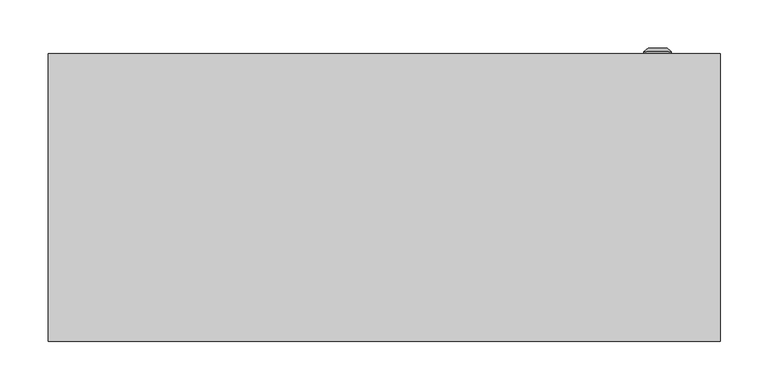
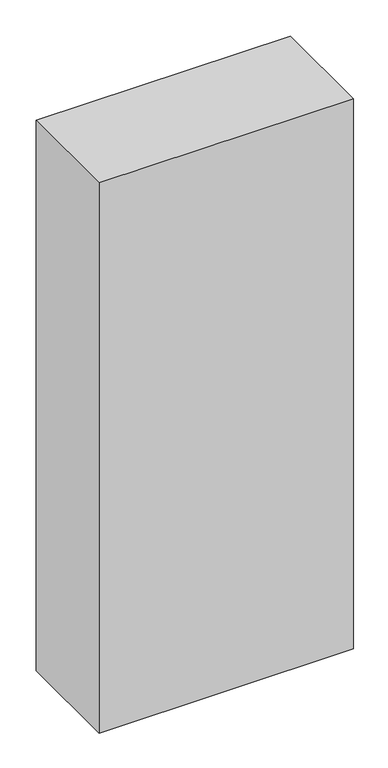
"""IFC4 building model written with IfcOpenShell, lengths in millimetres: proxy geometry, ШРС : ШРС-1_1600х700х300."""

from ifc_helpers import new_model, si_unit, frame, origin, place, context, project, spatial, polyline, circle_curve, outline, extrude, faceted_brep, source, transform, mapped, element, save
from ifc_brep_helpers import plane_surface, cylinder_surface, revolved_surface, advanced_brep


def electrical_equipment_89490b8c(model_context):
    return source(origin(), model_context, "Body", "SolidModel", [
        faceted_brep([(336.0, 280.0, 1535.0), (336.0, 280.0, 65.0187804), (-336.0, 280.0, 65.0187804), (-336.0, 280.0, 1535.0), (315.8707865, 280.0, 93.3701084), (315.8707865, 280.0, 1492.9861595), (-313.3426966, 280.0, 1492.9861595), (-313.3426966, 280.0, 93.3701084), (-350.0, 0.0, 1600.0), (-350.0, 300.0, 1600.0), (-350.0, 300.0, 0.0), (-350.0, 0.0, 0.0), (350.0, 300.0, 1600.0), (350.0, 0.0, 1600.0), (350.0, 0.0, 0.0), (350.0, 300.0, 0.0), (-313.3426966, 10.0, 93.3701084), (315.8707865, 10.0, 93.3701084), (-313.3426966, 10.0, 1492.9861595), (315.8707865, 10.0, 1492.9861595), (336.0, 300.0, 1535.0), (-336.0, 300.0, 1535.0), (336.0, 300.0, 65.0187804), (-336.0, 300.0, 65.0187804)], [[[0, 1, 2, 3], [4, 5, 6, 7]], [[8, 9, 10, 11]], [[12, 13, 14, 15]], [[4, 7, 16, 17]], [[7, 6, 18, 16]], [[6, 5, 19, 18]], [[5, 4, 17, 19]], [[12, 9, 8, 13]], [[20, 0, 3, 21]], [[9, 12, 15, 10], [22, 20, 21, 23]], [[14, 13, 8, 11]], [[1, 22, 23, 2]], [[15, 14, 11, 10]], [[20, 22, 1, 0]], [[23, 21, 3, 2]], [[17, 16, 18, 19]]]),
        extrude(outline(polyline([(-305.8707865, 125.9831461), (-265.8707865, 125.9831461), (-265.8707865, 93.1179775), (-268.8707865, 93.1179775), (-268.8707865, 122.9831461), (-302.8707865, 122.9831461), (-302.8707865, 93.1179775), (-305.8707865, 93.1179775), (-305.8707865, 125.9831461)])), frame((0.0, 0.0, 189.6067416), z_axis=(0.0, 0.0, 1.0), x_axis=(1.0, 0.0, 0.0)), (0.0, 0.0, 1.0), 1345.3932584),
        extrude(outline(polyline([(265.8707865, 125.9831461), (305.8707865, 125.9831461), (305.8707865, 93.1179775), (302.8707865, 93.1179775), (302.8707865, 122.9831461), (268.8707865, 122.9831461), (268.8707865, 93.1179775), (265.8707865, 93.1179775), (265.8707865, 125.9831461)])), frame((0.0, 0.0, 189.6067416), z_axis=(0.0, 0.0, 1.0), x_axis=(1.0, 0.0, 0.0)), (0.0, 0.0, 1.0), 1345.3932584),
        extrude(outline(polyline([(-305.8707865, 10.0), (-315.8707865, 10.0), (-315.8707865, 280.0), (-305.8707865, 280.0), (-305.8707865, 10.0)])), frame((0.0, 0.0, 1445.5966059), z_axis=(0.0, 0.0, 1.0), x_axis=(1.0, 0.0, 0.0)), (0.0, 0.0, 1.0), 53.0898876),
        extrude(outline(polyline([(315.8707865, 10.0), (305.8707865, 10.0), (305.8707865, 280.0), (315.8707865, 280.0), (315.8707865, 10.0)])), frame((0.0, 0.0, 1445.5966059), z_axis=(0.0, 0.0, 1.0), x_axis=(1.0, 0.0, 0.0)), (0.0, 0.0, 1.0), 53.0898876),
        extrude(outline(polyline([(-305.8707865, 10.0), (-315.8707865, 10.0), (-315.8707865, 280.0), (-305.8707865, 280.0), (-305.8707865, 10.0)])), frame((0.0, 0.0, 255.5966059), z_axis=(0.0, 0.0, 1.0), x_axis=(1.0, 0.0, 0.0)), (0.0, 0.0, 1.0), 53.0898876),
        extrude(outline(polyline([(315.8707865, 10.0), (305.8707865, 10.0), (305.8707865, 280.0), (315.8707865, 280.0), (315.8707865, 10.0)])), frame((0.0, 0.0, 255.5966059), z_axis=(0.0, 0.0, 1.0), x_axis=(1.0, 0.0, 0.0)), (0.0, 0.0, 1.0), 53.0898876),
        extrude(outline(polyline([(-305.8707865, 10.0), (-315.8707865, 10.0), (-315.8707865, 280.0), (-305.8707865, 280.0), (-305.8707865, 10.0)])), frame((0.0, 0.0, 735.5966059), z_axis=(0.0, 0.0, 1.0), x_axis=(1.0, 0.0, 0.0)), (0.0, 0.0, 1.0), 53.0898876),
        extrude(outline(polyline([(315.8707865, 10.0), (305.8707865, 10.0), (305.8707865, 280.0), (315.8707865, 280.0), (315.8707865, 10.0)])), frame((0.0, 0.0, 735.5966059), z_axis=(0.0, 0.0, 1.0), x_axis=(1.0, 0.0, 0.0)), (0.0, 0.0, 1.0), 53.0898876),
        advanced_brep(
        [(270.669873, 300.0, 315.0), (299.330127, 300.0, 315.0), (285.0, 300.0, 315.0), (270.669873, 302.366592, 315.0), (299.330127, 302.366592, 315.0), (275.0, 306.0, 315.0), (295.0, 306.0, 315.0), (283.1080471, 306.0, 315.0), (286.8919529, 306.0, 315.0), (283.1080471, 304.9822294, 315.0), (286.8919529, 304.9822294, 315.0), (285.0, 304.9822294, 315.0)],
        [
            (0, 1, circle_curve(frame((285.0, 300.0, 315.0), z_axis=(0.0, -1.0, 0.0), x_axis=(1.0, 0.0, 0.0)), 14.330127)),
            (1, 2),
            (2, 0),
            (1, 0, circle_curve(frame((285.0, 300.0, 315.0), z_axis=(0.0, -1.0, 0.0), x_axis=(1.0, 0.0, 0.0)), 14.330127)),
            (3, 4, circle_curve(frame((285.0, 302.366592, 315.0), z_axis=(0.0, -1.0, 0.0), x_axis=(1.0, 0.0, 0.0)), 14.330127)),
            (4, 1),
            (0, 3),
            (4, 3, circle_curve(frame((285.0, 302.366592, 315.0), z_axis=(0.0, -1.0, 0.0), x_axis=(1.0, 0.0, 0.0)), 14.330127)),
            (5, 6, circle_curve(frame((285.0, 306.0, 315.0), z_axis=(0.0, -1.0, 0.0), x_axis=(1.0, 0.0, 0.0)), 10.0)),
            (6, 4),
            (3, 5),
            (6, 5, circle_curve(frame((285.0, 306.0, 315.0), z_axis=(0.0, -1.0, 0.0), x_axis=(1.0, 0.0, 0.0)), 10.0)),
            (7, 8, circle_curve(frame((285.0, 306.0, 315.0), z_axis=(0.0, -1.0, 0.0), x_axis=(1.0, 0.0, 0.0)), 1.8919529)),
            (8, 6),
            (5, 7),
            (8, 7, circle_curve(frame((285.0, 306.0, 315.0), z_axis=(0.0, -1.0, 0.0), x_axis=(1.0, 0.0, 0.0)), 1.8919529)),
            (9, 10, circle_curve(frame((285.0, 304.9822294, 315.0), z_axis=(0.0, -1.0, 0.0), x_axis=(1.0, 0.0, 0.0)), 1.8919529)),
            (10, 8),
            (7, 9),
            (10, 9, circle_curve(frame((285.0, 304.9822294, 315.0), z_axis=(0.0, -1.0, 0.0), x_axis=(1.0, 0.0, 0.0)), 1.8919529)),
            (11, 10),
            (9, 11),
        ],
        [
            plane_surface(frame((285.0, 300.0, 315.0), z_axis=(0.0, -1.0, 0.0), x_axis=(1.0, 0.0, 0.0))),
            cylinder_surface(frame((285.0, 313.1348851, 315.0), z_axis=(0.0, 1.0, 0.0), x_axis=(1.0, 0.0, 0.0)), 14.330127),
            revolved_surface(polyline([(299.330127, 302.366592, 315.0), (295.0, 306.0, 315.0)]), (285.0, 313.1348851, 315.0), (0.0, 1.0, 0.0)),
            plane_surface(frame((285.0, 306.0, 315.0), z_axis=(0.0, 1.0, 0.0), x_axis=(1.0, 0.0, 0.0))),
            revolved_surface(polyline([(286.8919529, 306.0, 315.0), (286.8919529, 304.9822294, 315.0)]), (285.0, 313.1348851, 315.0), (0.0, 1.0, 0.0)),
            plane_surface(frame((285.0, 304.9822294, 315.0), z_axis=(0.0, 1.0, 0.0), x_axis=(1.0, 0.0, 0.0))),
        ],
        [
            (0, [[1, 2, 3]]),
            (0, [[4, -3, -2]]),
            (1, [[5, 6, -1, 7]]),
            (1, [[8, -7, -4, -6]]),
            (2, [[9, 10, -5, 11]]),
            (2, [[12, -11, -8, -10]]),
            (3, [[13, 14, -9, 15]]),
            (3, [[16, -15, -12, -14]]),
            (4, [[17, 18, -13, 19]]),
            (4, [[20, -19, -16, -18]]),
            (5, [[21, -17, 22]]),
            (5, [[-22, -20, -21]]),
        ],
    ),
        advanced_brep(
        [(270.669873, 300.0, 1285.0), (299.330127, 300.0, 1285.0), (285.0, 300.0, 1285.0), (270.669873, 302.366592, 1285.0), (299.330127, 302.366592, 1285.0), (275.0, 306.0, 1285.0), (295.0, 306.0, 1285.0), (283.1080471, 306.0, 1285.0), (286.8919529, 306.0, 1285.0), (283.1080471, 304.9822294, 1285.0), (286.8919529, 304.9822294, 1285.0), (285.0, 304.9822294, 1285.0)],
        [
            (0, 1, circle_curve(frame((285.0, 300.0, 1285.0), z_axis=(0.0, -1.0, 0.0), x_axis=(1.0, 0.0, 0.0)), 14.330127)),
            (1, 2),
            (2, 0),
            (1, 0, circle_curve(frame((285.0, 300.0, 1285.0), z_axis=(0.0, -1.0, 0.0), x_axis=(1.0, 0.0, 0.0)), 14.330127)),
            (3, 4, circle_curve(frame((285.0, 302.366592, 1285.0), z_axis=(0.0, -1.0, 0.0), x_axis=(1.0, 0.0, 0.0)), 14.330127)),
            (4, 1),
            (0, 3),
            (4, 3, circle_curve(frame((285.0, 302.366592, 1285.0), z_axis=(0.0, -1.0, 0.0), x_axis=(1.0, 0.0, 0.0)), 14.330127)),
            (5, 6, circle_curve(frame((285.0, 306.0, 1285.0), z_axis=(0.0, -1.0, 0.0), x_axis=(1.0, 0.0, 0.0)), 10.0)),
            (6, 4),
            (3, 5),
            (6, 5, circle_curve(frame((285.0, 306.0, 1285.0), z_axis=(0.0, -1.0, 0.0), x_axis=(1.0, 0.0, 0.0)), 10.0)),
            (7, 8, circle_curve(frame((285.0, 306.0, 1285.0), z_axis=(0.0, -1.0, 0.0), x_axis=(1.0, 0.0, 0.0)), 1.8919529)),
            (8, 6),
            (5, 7),
            (8, 7, circle_curve(frame((285.0, 306.0, 1285.0), z_axis=(0.0, -1.0, 0.0), x_axis=(1.0, 0.0, 0.0)), 1.8919529)),
            (9, 10, circle_curve(frame((285.0, 304.9822294, 1285.0), z_axis=(0.0, -1.0, 0.0), x_axis=(1.0, 0.0, 0.0)), 1.8919529)),
            (10, 8),
            (7, 9),
            (10, 9, circle_curve(frame((285.0, 304.9822294, 1285.0), z_axis=(0.0, -1.0, 0.0), x_axis=(1.0, 0.0, 0.0)), 1.8919529)),
            (11, 10),
            (9, 11),
        ],
        [
            plane_surface(frame((285.0, 300.0, 1285.0), z_axis=(0.0, -1.0, 0.0), x_axis=(1.0, 0.0, 0.0))),
            cylinder_surface(frame((285.0, 313.1348851, 1285.0), z_axis=(0.0, 1.0, 0.0), x_axis=(1.0, 0.0, 0.0)), 14.330127),
            revolved_surface(polyline([(299.330127, 302.366592, 1285.0), (295.0, 306.0, 1285.0)]), (285.0, 313.1348851, 1285.0), (0.0, 1.0, 0.0)),
            plane_surface(frame((285.0, 306.0, 1285.0), z_axis=(0.0, 1.0, 0.0), x_axis=(1.0, 0.0, 0.0))),
            revolved_surface(polyline([(286.8919529, 306.0, 1285.0), (286.8919529, 304.9822294, 1285.0)]), (285.0, 313.1348851, 1285.0), (0.0, 1.0, 0.0)),
            plane_surface(frame((285.0, 304.9822294, 1285.0), z_axis=(0.0, 1.0, 0.0), x_axis=(1.0, 0.0, 0.0))),
        ],
        [
            (0, [[1, 2, 3]]),
            (0, [[4, -3, -2]]),
            (1, [[5, 6, -1, 7]]),
            (1, [[8, -7, -4, -6]]),
            (2, [[9, 10, -5, 11]]),
            (2, [[12, -11, -8, -10]]),
            (3, [[13, 14, -9, 15]]),
            (3, [[16, -15, -12, -14]]),
            (4, [[17, 18, -13, 19]]),
            (4, [[20, -19, -16, -18]]),
            (5, [[21, -17, 22]]),
            (5, [[-22, -20, -21]]),
        ],
    ),
        extrude(outline(polyline([(335.0, 280.0), (-335.0, 280.0), (-335.0, 300.0), (335.0, 300.0), (335.0, 280.0)])), frame((0.0, 0.0, 65.0187804), z_axis=(0.0, 0.0, 1.0), x_axis=(1.0, 0.0, 0.0)), (0.0, 0.0, 1.0), 1469.9812196),
    ])


if __name__ == "__main__":
    model = new_model("IFC4")
    model_context = context("Model", 3, world=origin())
    ifc_project = project(units=[si_unit("LENGTHUNIT", "METRE", prefix="MILLI")], contexts=[model_context])
    site = spatial("IfcSite", under=ifc_project)
    building = spatial("IfcBuilding", under=site)
    placement = place(None, origin())
    electrical_equipment_shape = electrical_equipment_89490b8c(model_context)
    element("IfcBuildingElementProxy", 1, Name="ШРС : ШРС-1_1600х700х300", ObjectType="ШРС : ШРС-1_1600х700х300", at=placement, inside=building, context=model_context, shape_type="MappedRepresentation", body=[
        mapped(electrical_equipment_shape, transform((0.0, 0.0, 0.0), x_axis=(1.0, 0.0, 0.0), y_axis=(0.0, 1.0, 0.0), z_axis=(0.0, 0.0, 1.0))),
    ])
    save(model, "model.ifc")
